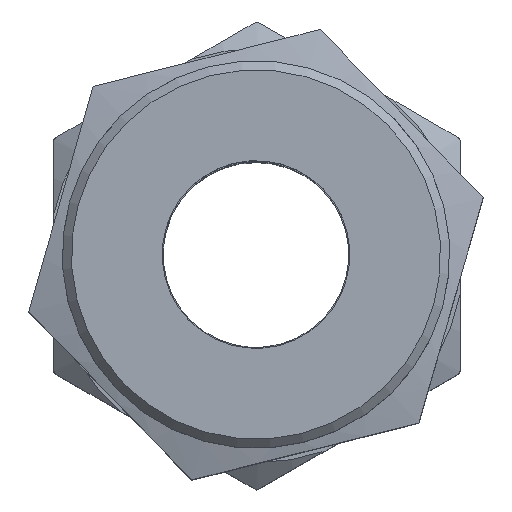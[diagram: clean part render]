
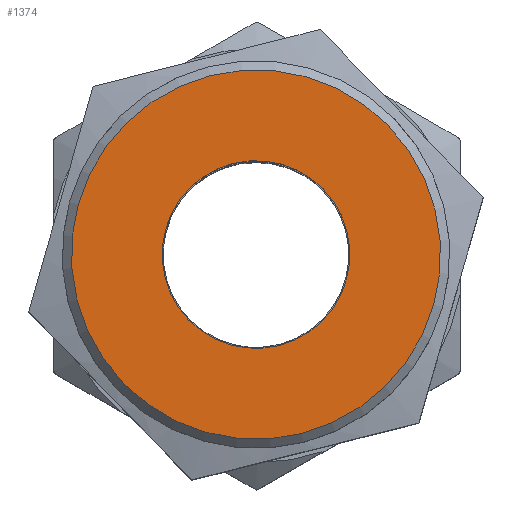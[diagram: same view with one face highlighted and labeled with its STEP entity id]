
A CAD part, top view. The second image highlights one B-rep face of the part: STEP entity #1374.
In plain terms, the highlighted planar face has unit normal (0, 0, 1) as drawn and (0, 1, 0) by its records, which use the part's own axes.
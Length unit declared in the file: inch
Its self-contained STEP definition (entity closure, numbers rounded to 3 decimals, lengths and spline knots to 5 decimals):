
#251=PLANE('',#1489);
#297=FACE_BOUND('',#449,.T.);
#341=FACE_OUTER_BOUND('',#448,.T.);
#448=EDGE_LOOP('',(#996));
#449=EDGE_LOOP('',(#997));
#565=CIRCLE('',#1486,0.25375);
#567=CIRCLE('',#1490,0.129);
#632=VERTEX_POINT('',#3125);
#634=VERTEX_POINT('',#3131);
#777=EDGE_CURVE('',#632,#632,#565,.T.);
#779=EDGE_CURVE('',#634,#634,#567,.T.);
#996=ORIENTED_EDGE('',*,*,#777,.F.);
#997=ORIENTED_EDGE('',*,*,#779,.T.);
#1374=ADVANCED_FACE('',(#341,#297),#251,.T.);
#1486=AXIS2_PLACEMENT_3D('',#3126,#1675,#1676);
#1489=AXIS2_PLACEMENT_3D('',#3130,#1681,#1682);
#1490=AXIS2_PLACEMENT_3D('',#3132,#1683,#1684);
#1675=DIRECTION('center_axis',(0.,-1.,0.));
#1676=DIRECTION('ref_axis',(-1.,0.,0.));
#1681=DIRECTION('center_axis',(0.,1.,0.));
#1682=DIRECTION('ref_axis',(0.,0.,1.));
#1683=DIRECTION('center_axis',(0.,-1.,0.));
#1684=DIRECTION('ref_axis',(-1.,0.,0.));
#3125=CARTESIAN_POINT('',(0.25375,0.515,0.));
#3126=CARTESIAN_POINT('Origin',(0.,0.515,0.));
#3130=CARTESIAN_POINT('Origin',(0.,0.515,0.));
#3131=CARTESIAN_POINT('',(0.129,0.515,0.));
#3132=CARTESIAN_POINT('Origin',(0.,0.515,0.));
